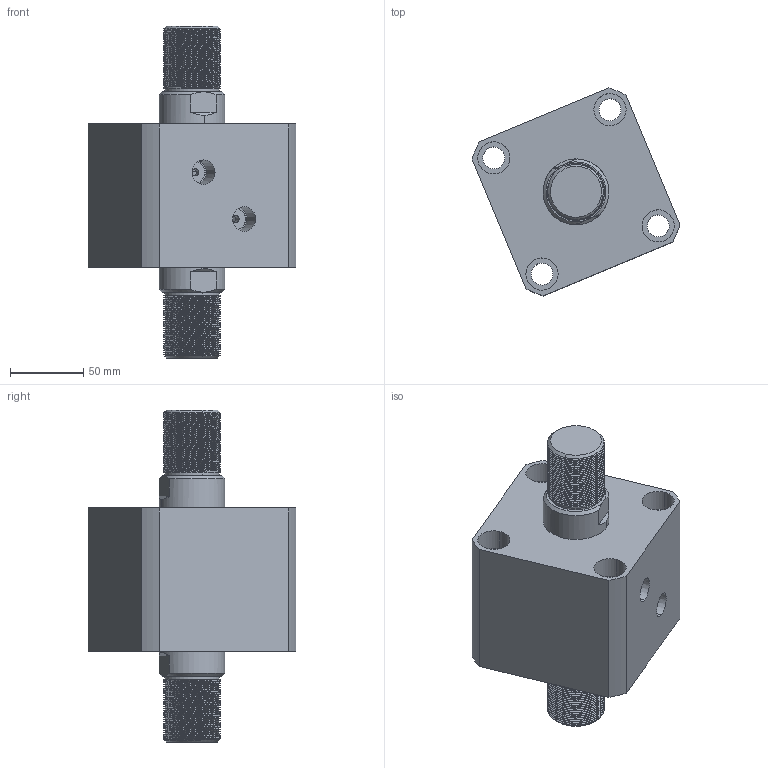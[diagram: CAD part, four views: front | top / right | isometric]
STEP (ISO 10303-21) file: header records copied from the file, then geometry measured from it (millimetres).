
FILE_DESCRIPTION (( 'STEP AP214' ), '1' );
FILE_NAME ('chtb-sw80x5w_asm.STEP', '2018-05-28T01:31:00', ( 'Windows' ), ( 'Microsoft' ), 'SwSTEP 2.0', 'SolidWorks 2015', '' );
FILE_SCHEMA (( 'AUTOMOTIVE_DESIGN' ));
Length unit declared in the file: millimetre
Products named in the file (4): CHTB-SW80X5WHSG; CHTB-SW80X5NBT; CHTB-SD80QG; chtb-sw80x5w_asm
Assembly tree (3 placements, depth 2):
  chtb-sw80x5w_asm
    CHTB-SD80QG
    CHTB-SW80X5NBT
    CHTB-SW80X5WHSG
Bounding box: 142.06 x 142.06 x 227 mm (x, y, z)
Volume: 1288609.3 mm3; surface area: 187816.7 mm2
Topology: 3 solids, 3 shells, 330 faces, 908 edges, 607 vertices
Faces by surface type: cylinder 221, plane 48, cone 25, bspline 18, torus 18
Entity records: 25864 total; most frequent: CARTESIAN_POINT 18238, ORIENTED_EDGE 1808, DIRECTION 1338, EDGE_CURVE 904, VERTEX_POINT 607, AXIS2_PLACEMENT_3D 532, EDGE_LOOP 373, ADVANCED_FACE 330
